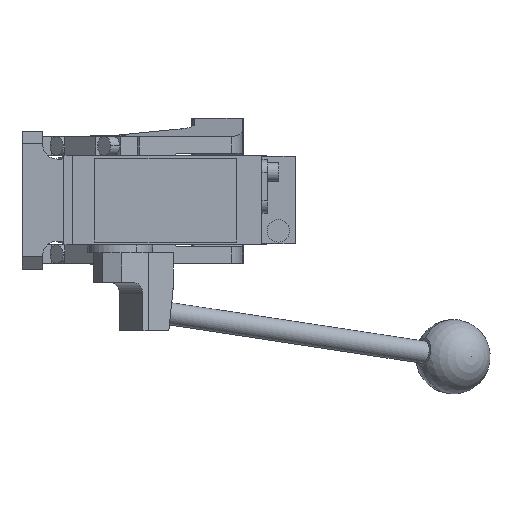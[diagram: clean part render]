
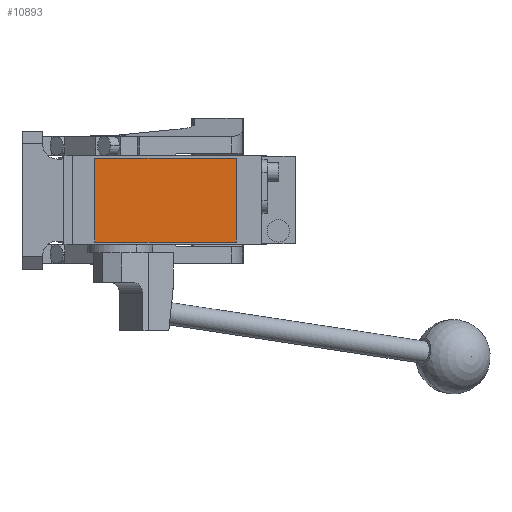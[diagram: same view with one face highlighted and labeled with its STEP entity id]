
A CAD part, front view. The second image highlights one B-rep face of the part: STEP entity #10893.
In plain terms, the highlighted planar face has unit normal (0, -1, 0).
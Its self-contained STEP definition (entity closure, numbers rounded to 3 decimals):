
#405 = VERTEX_POINT ( 'NONE', #3445 ) ;
#1232 = CARTESIAN_POINT ( 'NONE',  ( 69., -280.5, 22.5 ) ) ;
#1564 = ORIENTED_EDGE ( 'NONE', *, *, #10632, .T. ) ;
#1641 = ORIENTED_EDGE ( 'NONE', *, *, #7607, .T. ) ;
#1867 = DIRECTION ( 'NONE',  ( 0., -1., 0. ) ) ;
#2637 = LINE ( 'NONE', #1232, #13661 ) ;
#3189 = VECTOR ( 'NONE', #6199, 1000. ) ;
#3311 = DIRECTION ( 'NONE',  ( 1., 0., 0. ) ) ;
#3356 = EDGE_CURVE ( 'NONE', #405, #4363, #2637, .T. ) ;
#3445 = CARTESIAN_POINT ( 'NONE',  ( 69., -280.5, -22.5 ) ) ;
#3553 = LINE ( 'NONE', #6968, #11998 ) ;
#3601 = CARTESIAN_POINT ( 'NONE',  ( -7., -280.5, 22.5 ) ) ;
#4363 = VERTEX_POINT ( 'NONE', #14486 ) ;
#4508 = FACE_OUTER_BOUND ( 'NONE', #11184, .T. ) ;
#5719 = DIRECTION ( 'NONE',  ( 0., 0., -1. ) ) ;
#5859 = DIRECTION ( 'NONE',  ( 0., 0., -1. ) ) ;
#6199 = DIRECTION ( 'NONE',  ( -1., 0., 0. ) ) ;
#6968 = CARTESIAN_POINT ( 'NONE',  ( -7., -280.5, -22.5 ) ) ;
#7607 = EDGE_CURVE ( 'NONE', #13355, #405, #3553, .T. ) ;
#8991 = ORIENTED_EDGE ( 'NONE', *, *, #11617, .T. ) ;
#9296 = CARTESIAN_POINT ( 'NONE',  ( 0., -280.5, 0. ) ) ;
#10579 = ORIENTED_EDGE ( 'NONE', *, *, #3356, .T. ) ;
#10632 = EDGE_CURVE ( 'NONE', #4363, #11642, #11159, .T. ) ;
#10893 = ADVANCED_FACE ( 'NONE', ( #4508 ), #15755, .T. ) ;
#11159 = LINE ( 'NONE', #3601, #3189 ) ;
#11184 = EDGE_LOOP ( 'NONE', ( #8991, #1641, #10579, #1564 ) ) ;
#11514 = AXIS2_PLACEMENT_3D ( 'NONE', #9296, #1867, #5719 ) ;
#11617 = EDGE_CURVE ( 'NONE', #11642, #13355, #11956, .T. ) ;
#11642 = VERTEX_POINT ( 'NONE', #14515 ) ;
#11956 = LINE ( 'NONE', #12034, #15205 ) ;
#11998 = VECTOR ( 'NONE', #3311, 1000. ) ;
#12034 = CARTESIAN_POINT ( 'NONE',  ( -7., -280.5, 22.5 ) ) ;
#13355 = VERTEX_POINT ( 'NONE', #15372 ) ;
#13661 = VECTOR ( 'NONE', #13901, 1000. ) ;
#13901 = DIRECTION ( 'NONE',  ( 0., 0., 1. ) ) ;
#14486 = CARTESIAN_POINT ( 'NONE',  ( 69., -280.5, 22.5 ) ) ;
#14515 = CARTESIAN_POINT ( 'NONE',  ( -7., -280.5, 22.5 ) ) ;
#15205 = VECTOR ( 'NONE', #5859, 1000. ) ;
#15372 = CARTESIAN_POINT ( 'NONE',  ( -7., -280.5, -22.5 ) ) ;
#15755 = PLANE ( 'NONE',  #11514 ) ;
